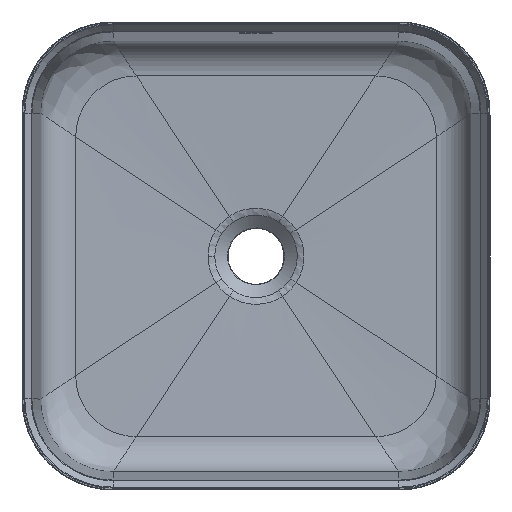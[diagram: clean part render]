
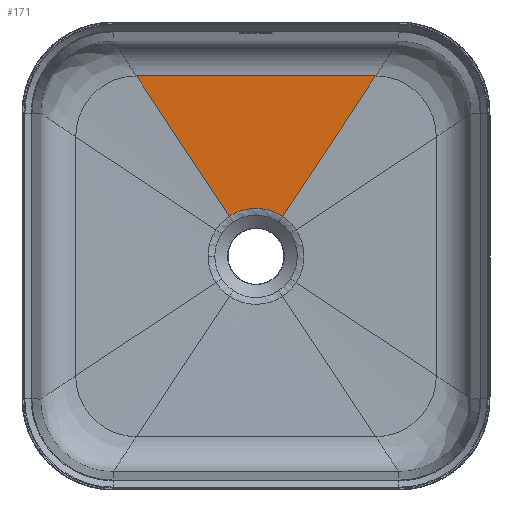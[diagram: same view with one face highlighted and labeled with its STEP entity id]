
A CAD part, top view. The second image highlights one B-rep face of the part: STEP entity #171.
In plain terms, the highlighted free-form (B-spline) face has degree [3, 3] with [9, 6] control points.
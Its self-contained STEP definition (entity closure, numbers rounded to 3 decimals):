
#171=ADVANCED_FACE('',(#488),#4600,.T.);
#488=FACE_OUTER_BOUND('',#805,.T.);
#805=EDGE_LOOP('',(#1617,#1618,#1619,#1620));
#1617=ORIENTED_EDGE('',*,*,#2702,.F.);
#1618=ORIENTED_EDGE('',*,*,#2676,.T.);
#1619=ORIENTED_EDGE('',*,*,#2703,.F.);
#1620=ORIENTED_EDGE('',*,*,#2704,.F.);
#2676=EDGE_CURVE('',#4116,#4115,#3194,.T.);
#2702=EDGE_CURVE('',#4116,#4132,#3583,.T.);
#2703=EDGE_CURVE('',#4133,#4115,#3584,.T.);
#2704=EDGE_CURVE('',#4132,#4133,#3209,.T.);
#3194=(
BOUNDED_CURVE()
B_SPLINE_CURVE(1,(#189133,#189134),.UNSPECIFIED.,.F.,.F.)
B_SPLINE_CURVE_WITH_KNOTS((2,2),(19.152,215.848),
 .UNSPECIFIED.)
CURVE()
GEOMETRIC_REPRESENTATION_ITEM()
RATIONAL_B_SPLINE_CURVE((1.,1.))
REPRESENTATION_ITEM('')
);
#3209=(
BOUNDED_CURVE()
B_SPLINE_CURVE(3,(#189351,#189352,#189353,#189354,#189355,#189356,#189357),
 .UNSPECIFIED.,.F.,.F.)
B_SPLINE_CURVE_WITH_KNOTS((4,1,1,1,4),(0.014,11.65,
23.286,34.922,46.559),.UNSPECIFIED.)
CURVE()
GEOMETRIC_REPRESENTATION_ITEM()
RATIONAL_B_SPLINE_CURVE((1.,1.,1.,1.,1.,1.,
1.))
REPRESENTATION_ITEM('')
);
#3583=B_SPLINE_CURVE_WITH_KNOTS('',3,(#189339,#189340,#189341,#189342,#189343,
#189344),.UNSPECIFIED.,.F.,.F.,(4,1,1,4),(0.,47.242,94.484,
138.521),.UNSPECIFIED.);
#3584=B_SPLINE_CURVE_WITH_KNOTS('',3,(#189345,#189346,#189347,#189348,#189349,
#189350),.UNSPECIFIED.,.F.,.F.,(4,1,1,4),(-138.521,-94.484,
-47.242,0.),.UNSPECIFIED.);
#4115=VERTEX_POINT('',#168269);
#4116=VERTEX_POINT('',#168270);
#4132=VERTEX_POINT('',#168286);
#4133=VERTEX_POINT('',#168287);
#4600=B_SPLINE_SURFACE_WITH_KNOTS('',3,3,((#163651,#163652,#163653,#163654,
#163655,#163656),(#163657,#163658,#163659,#163660,#163661,#163662),(#163663,
#163664,#163665,#163666,#163667,#163668),(#163669,#163670,#163671,#163672,
#163673,#163674),(#163675,#163676,#163677,#163678,#163679,#163680),(#163681,
#163682,#163683,#163684,#163685,#163686),(#163687,#163688,#163689,#163690,
#163691,#163692),(#163693,#163694,#163695,#163696,#163697,#163698),(#163699,
#163700,#163701,#163702,#163703,#163704)),.UNSPECIFIED.,.F.,.F.,.F.,(4,
1,1,1,1,1,4),(4,1,1,4),(0.,17.586,35.172,52.758,
70.344,87.93,105.516),(0.,47.242,
94.484,141.726),.UNSPECIFIED.);
#163651=CARTESIAN_POINT('',(18780.755,148.324,-7523.146));
#163652=CARTESIAN_POINT('',(18772.056,135.205,-7523.581));
#163653=CARTESIAN_POINT('',(18754.658,108.966,-7524.45));
#163654=CARTESIAN_POINT('',(18728.562,69.608,-7525.754));
#163655=CARTESIAN_POINT('',(18711.164,43.369,-7526.623));
#163656=CARTESIAN_POINT('',(18702.465,30.25,-7527.058));
#163657=CARTESIAN_POINT('',(18769.828,148.324,-7523.146));
#163658=CARTESIAN_POINT('',(18762.125,135.35,-7523.581));
#163659=CARTESIAN_POINT('',(18746.719,109.4,-7524.45));
#163660=CARTESIAN_POINT('',(18723.609,70.476,-7525.754));
#163661=CARTESIAN_POINT('',(18708.203,44.527,-7526.623));
#163662=CARTESIAN_POINT('',(18700.5,31.552,-7527.058));
#163663=CARTESIAN_POINT('',(18747.973,148.324,-7523.146));
#163664=CARTESIAN_POINT('',(18742.232,135.597,-7523.581));
#163665=CARTESIAN_POINT('',(18730.75,110.143,-7524.45));
#163666=CARTESIAN_POINT('',(18713.528,71.961,-7525.754));
#163667=CARTESIAN_POINT('',(18702.047,46.507,-7526.623));
#163668=CARTESIAN_POINT('',(18696.306,33.779,-7527.058));
#163669=CARTESIAN_POINT('',(18715.19,148.324,-7523.146));
#163670=CARTESIAN_POINT('',(18712.335,135.825,-7523.581));
#163671=CARTESIAN_POINT('',(18706.624,110.827,-7524.45));
#163672=CARTESIAN_POINT('',(18698.057,73.33,-7525.754));
#163673=CARTESIAN_POINT('',(18692.346,48.332,-7526.623));
#163674=CARTESIAN_POINT('',(18689.491,35.833,-7527.058));
#163675=CARTESIAN_POINT('',(18682.408,148.324,-7523.146));
#163676=CARTESIAN_POINT('',(18682.408,135.902,-7523.581));
#163677=CARTESIAN_POINT('',(18682.408,111.058,-7524.45));
#163678=CARTESIAN_POINT('',(18682.408,73.793,-7525.754));
#163679=CARTESIAN_POINT('',(18682.408,48.949,-7526.623));
#163680=CARTESIAN_POINT('',(18682.408,36.527,-7527.058));
#163681=CARTESIAN_POINT('',(18649.625,148.324,-7523.146));
#163682=CARTESIAN_POINT('',(18652.48,135.825,-7523.581));
#163683=CARTESIAN_POINT('',(18658.191,110.827,-7524.45));
#163684=CARTESIAN_POINT('',(18666.757,73.33,-7525.754));
#163685=CARTESIAN_POINT('',(18672.468,48.332,-7526.623));
#163686=CARTESIAN_POINT('',(18675.323,35.833,-7527.058));
#163687=CARTESIAN_POINT('',(18616.842,148.324,-7523.146));
#163688=CARTESIAN_POINT('',(18622.583,135.597,-7523.581));
#163689=CARTESIAN_POINT('',(18634.064,110.142,-7524.45));
#163690=CARTESIAN_POINT('',(18651.286,71.961,-7525.754));
#163691=CARTESIAN_POINT('',(18662.767,46.506,-7526.623));
#163692=CARTESIAN_POINT('',(18668.507,33.779,-7527.058));
#163693=CARTESIAN_POINT('',(18594.987,148.324,-7523.146));
#163694=CARTESIAN_POINT('',(18602.69,135.35,-7523.581));
#163695=CARTESIAN_POINT('',(18618.096,109.4,-7524.45));
#163696=CARTESIAN_POINT('',(18641.205,70.476,-7525.754));
#163697=CARTESIAN_POINT('',(18656.611,44.527,-7526.623));
#163698=CARTESIAN_POINT('',(18664.314,31.552,-7527.058));
#163699=CARTESIAN_POINT('',(18584.06,148.324,-7523.146));
#163700=CARTESIAN_POINT('',(18592.759,135.205,-7523.581));
#163701=CARTESIAN_POINT('',(18610.157,108.966,-7524.45));
#163702=CARTESIAN_POINT('',(18636.253,69.608,-7525.754));
#163703=CARTESIAN_POINT('',(18653.651,43.369,-7526.623));
#163704=CARTESIAN_POINT('',(18662.35,30.25,-7527.058));
#168269=CARTESIAN_POINT('',(18584.06,148.324,-7523.146));
#168270=CARTESIAN_POINT('',(18780.755,148.324,-7523.146));
#168286=CARTESIAN_POINT('',(18704.236,32.92,-7526.97));
#168287=CARTESIAN_POINT('',(18660.579,32.92,-7526.97));
#189133=CARTESIAN_POINT('',(18780.755,148.324,-7523.146));
#189134=CARTESIAN_POINT('',(18584.06,148.324,-7523.146));
#189339=CARTESIAN_POINT('',(18780.755,148.324,-7523.146));
#189340=CARTESIAN_POINT('',(18772.056,135.205,-7523.581));
#189341=CARTESIAN_POINT('',(18754.658,108.966,-7524.45));
#189342=CARTESIAN_POINT('',(18729.152,70.498,-7525.725));
#189343=CARTESIAN_POINT('',(18712.344,45.15,-7526.564));
#189344=CARTESIAN_POINT('',(18704.236,32.92,-7526.97));
#189345=CARTESIAN_POINT('',(18660.579,32.92,-7526.97));
#189346=CARTESIAN_POINT('',(18652.471,45.15,-7526.564));
#189347=CARTESIAN_POINT('',(18635.663,70.498,-7525.725));
#189348=CARTESIAN_POINT('',(18610.157,108.966,-7524.45));
#189349=CARTESIAN_POINT('',(18592.759,135.205,-7523.581));
#189350=CARTESIAN_POINT('',(18584.06,148.324,-7523.146));
#189351=CARTESIAN_POINT('',(18704.236,32.92,-7526.97));
#189352=CARTESIAN_POINT('',(18701.019,35.043,-7526.964));
#189353=CARTESIAN_POINT('',(18693.962,38.334,-7526.953));
#189354=CARTESIAN_POINT('',(18682.408,40.025,-7526.945));
#189355=CARTESIAN_POINT('',(18670.853,38.334,-7526.953));
#189356=CARTESIAN_POINT('',(18663.796,35.043,-7526.964));
#189357=CARTESIAN_POINT('',(18660.579,32.92,-7526.97));
